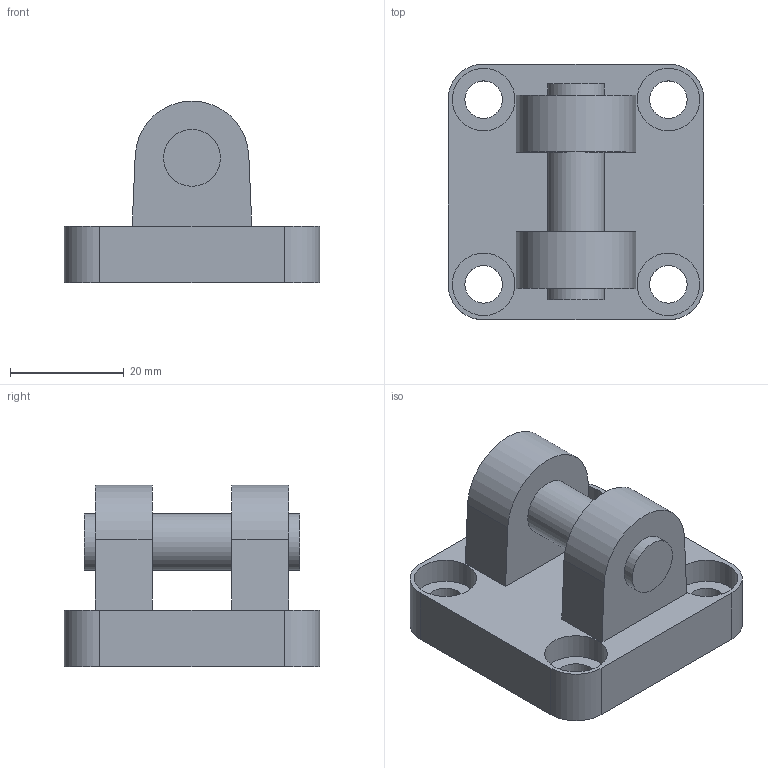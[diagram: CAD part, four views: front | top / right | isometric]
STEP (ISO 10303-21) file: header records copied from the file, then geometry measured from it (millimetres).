
FILE_DESCRIPTION((''),'2;1');
FILE_NAME('K:\A-Roberto\_Inventor\Rev.Librerie\FISSAGGI\1320_Ø_29F\STEP(1320_Ø_29F)\1320_32_29F.stp','2006-07-12T14:09:40',('rivolro1'),(''),'Autodesk Inventor 11','Autodesk Inventor 11','');
FILE_SCHEMA(('AUTOMOTIVE_DESIGN { 1 0 10303 214 1 1 1 1 }'));
Length unit declared in the file: millimetre
Products named in the file (1): 1320_32_29F
Bounding box: 45 x 45 x 32 mm (x, y, z)
Volume: 23403.8 mm3; surface area: 9661.2 mm2
Topology: 1 solids, 1 shells, 39 faces, 84 edges, 56 vertices
Faces by surface type: plane 16, bspline 14, cylinder 9
Full cylindrical faces by diameter (mm): 10 x3
Entity records: 1174 total; most frequent: CARTESIAN_POINT 336, DIRECTION 160, ORIENTED_EDGE 144, EDGE_CURVE 72, EDGE_LOOP 70, AXIS2_PLACEMENT_3D 62, VERTEX_POINT 56, FACE_OUTER_BOUND 39
